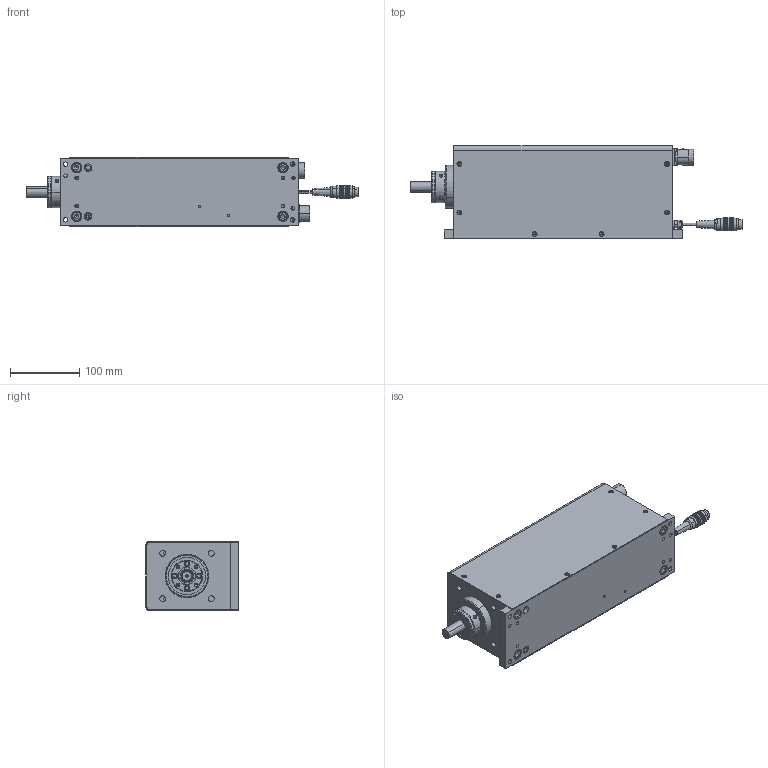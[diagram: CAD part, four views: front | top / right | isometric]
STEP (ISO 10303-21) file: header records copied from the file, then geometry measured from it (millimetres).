
FILE_DESCRIPTION (( 'STEP AP203' ), '1' );
FILE_NAME ('MUD5M-0050-060-NGNG2.STEP', '2017-09-27T11:03:32', ( 'ernst' ), ( '' ), 'SwSTEP 2.0', 'SolidWorks 2016', '' );
FILE_SCHEMA (( 'CONFIG_CONTROL_DESIGN' ));
Length unit declared in the file: millimetre
Products named in the file (1): MUD5M-0050-060-NGNG2
Bounding box: 478 x 133.5 x 100 mm (x, y, z)
Volume: 1050754.5 mm3; surface area: 458133.7 mm2
Topology: 46 solids, 46 shells, 5532 faces, 12958 edges, 7515 vertices
Faces by surface type: plane 3856, cylinder 1220, cone 317, torus 74, bspline 48, sphere 17
Entity records: 154620 total; most frequent: CARTESIAN_POINT 36851, ORIENTED_EDGE 25534, DIRECTION 23003, EDGE_CURVE 12767, LINE 8473, VECTOR 8473, VERTEX_POINT 7481, AXIS2_PLACEMENT_3D 7265
